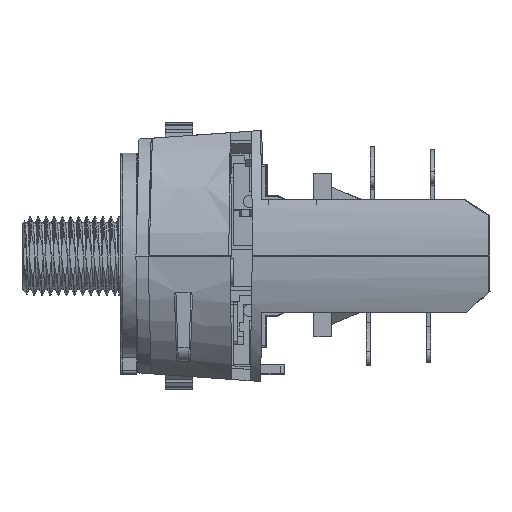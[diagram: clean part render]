
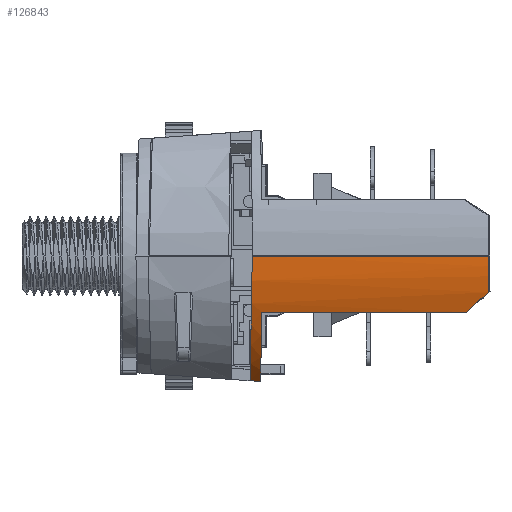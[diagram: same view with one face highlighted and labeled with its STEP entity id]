
A CAD part, left-side view. The second image highlights one B-rep face of the part: STEP entity #126843.
In plain terms, the highlighted cylindrical face has radius 20 mm (diameter 40 mm), a partial arc.
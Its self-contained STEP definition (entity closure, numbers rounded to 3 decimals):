
#86833=CARTESIAN_POINT('',(-124.084,-20.911,
-4.513));
#86834=CARTESIAN_POINT('',(-124.428,-20.924,
-3.028));
#86835=CARTESIAN_POINT('',(-124.6,-20.937,-1.524));
#86836=CARTESIAN_POINT('',(-124.6,-20.95,0.));
#94238=DIRECTION('',(0.,-1.,0.));
#94239=VECTOR('',#94238,25.368);
#94240=CARTESIAN_POINT('',(-123.354,7.149,
-6.95));
#94241=LINE('',#94240,#94239);
#103151=CARTESIAN_POINT('',(-123.354,7.149,
-6.95));
#103152=CARTESIAN_POINT('',(-122.935,7.169,
-8.079));
#103153=CARTESIAN_POINT('',(-121.915,7.206,
-10.221));
#103154=CARTESIAN_POINT('',(-119.812,7.257,
-13.147));
#103155=CARTESIAN_POINT('',(-118.108,7.286,
-14.798));
#103156=CARTESIAN_POINT('',(-117.172,7.299,
-15.555));
#103161=CARTESIAN_POINT('',(-117.172,7.299,
-15.555));
#103162=CARTESIAN_POINT('',(-117.209,7.732,
-15.524));
#103163=CARTESIAN_POINT('',(-117.247,8.165,
-15.494));
#103164=CARTESIAN_POINT('',(-117.284,8.598,
-15.464));
#103169=CARTESIAN_POINT('',(-117.284,8.598,
-15.464));
#103170=CARTESIAN_POINT('',(-119.722,8.563,
-13.463));
#103171=CARTESIAN_POINT('',(-123.196,8.482,
-8.798));
#103172=CARTESIAN_POINT('',(-124.6,8.383,-3.154));
#103173=CARTESIAN_POINT('',(-124.6,8.328,0.));
#103178=DIRECTION('',(0.,-1.,0.));
#103179=VECTOR('',#103178,29.278);
#103180=CARTESIAN_POINT('',(-124.6,8.328,0.));
#103181=LINE('',#103180,#103179);
#103185=CARTESIAN_POINT('',(-124.084,-20.911,
-4.513));
#103186=CARTESIAN_POINT('',(-123.894,-20.005,
-5.333));
#103187=CARTESIAN_POINT('',(-123.652,-19.108,
-6.145));
#103188=CARTESIAN_POINT('',(-123.354,-18.219,
-6.95));
#105351=CARTESIAN_POINT('',(-124.084,-20.911,
-4.513));
#105353=VERTEX_POINT('',#105351);
#105403=CARTESIAN_POINT('',(-123.354,-18.219,
-6.95));
#105404=VERTEX_POINT('',#105403);
#105406=CARTESIAN_POINT('',(-124.6,-20.95,0.));
#105408=VERTEX_POINT('',#105406);
#105425=CARTESIAN_POINT('',(-124.6,8.328,0.));
#105426=VERTEX_POINT('',#105425);
#106467=CARTESIAN_POINT('',(-117.172,7.299,
-15.555));
#106468=VERTEX_POINT('',#106467);
#106469=VERTEX_POINT('',#103151);
#107072=VERTEX_POINT('',#103169);
#126829=CARTESIAN_POINT('',(-104.6,14.8,0.));
#126830=DIRECTION('',(0.,-1.,0.));
#126831=DIRECTION('',(1.,0.,0.));
#126832=AXIS2_PLACEMENT_3D('',#126829,#126830,#126831);
#126833=CYLINDRICAL_SURFACE('',#126832,20.);
#126834=ORIENTED_EDGE('',*,*,#116431,.T.);
#126835=ORIENTED_EDGE('',*,*,#120716,.T.);
#126836=ORIENTED_EDGE('',*,*,#120612,.T.);
#126837=ORIENTED_EDGE('',*,*,#108565,.T.);
#126838=ORIENTED_EDGE('',*,*,#108535,.F.);
#126839=ORIENTED_EDGE('',*,*,#108509,.T.);
#126840=ORIENTED_EDGE('',*,*,#116577,.F.);
#126841=EDGE_LOOP('',(#126834,#126835,#126836,#126837,#126838,#126839,#126840));
#126842=FACE_OUTER_BOUND('',#126841,.F.);
#86837=B_SPLINE_CURVE_WITH_KNOTS('',3,(#86833,#86834,#86835,#86836),
.UNSPECIFIED.,.F.,.F.,(4,4),(0.,1.),.UNSPECIFIED.);
#103157=B_SPLINE_CURVE_WITH_KNOTS('',3,(#103151,#103152,#103153,#103154,#103155,
#103156),.UNSPECIFIED.,.F.,.F.,(4,1,1,4),(0.,0.333,
0.667,1.),.UNSPECIFIED.);
#103165=B_SPLINE_CURVE_WITH_KNOTS('',3,(#103161,#103162,#103163,#103164),
.UNSPECIFIED.,.F.,.F.,(4,4),(0.,1.),.UNSPECIFIED.);
#103174=B_SPLINE_CURVE_WITH_KNOTS('',3,(#103169,#103170,#103171,#103172,
#103173),.UNSPECIFIED.,.F.,.F.,(4,1,4),(0.,0.5,1.),.UNSPECIFIED.);
#103189=B_SPLINE_CURVE_WITH_KNOTS('',3,(#103185,#103186,#103187,#103188),
.UNSPECIFIED.,.F.,.F.,(4,4),(0.,1.),.UNSPECIFIED.);
#108509=EDGE_CURVE('',#105353,#105404,#103189,.T.);
#108535=EDGE_CURVE('',#105353,#105408,#86837,.T.);
#108565=EDGE_CURVE('',#105426,#105408,#103181,.T.);
#116431=EDGE_CURVE('',#106469,#106468,#103157,.T.);
#116577=EDGE_CURVE('',#106469,#105404,#94241,.T.);
#120612=EDGE_CURVE('',#107072,#105426,#103174,.T.);
#120716=EDGE_CURVE('',#106468,#107072,#103165,.T.);
#126843=ADVANCED_FACE('',(#126842),#126833,.T.);
